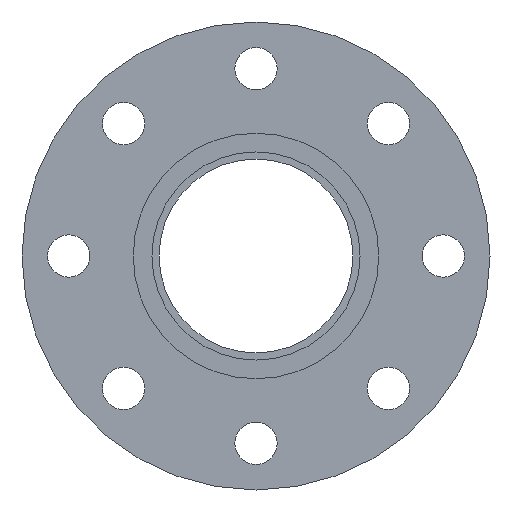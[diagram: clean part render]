
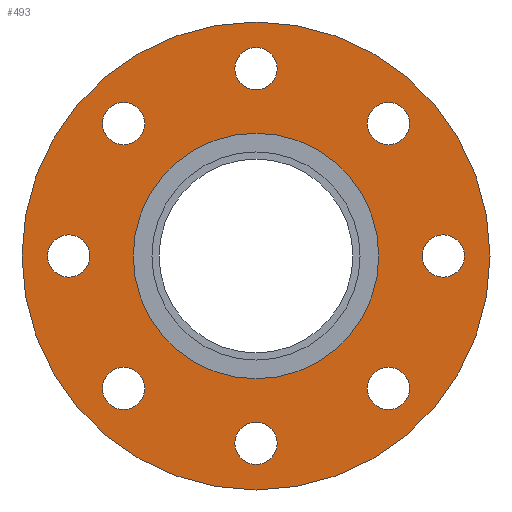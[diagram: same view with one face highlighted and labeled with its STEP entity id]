
A CAD part, left-side view. The second image highlights one B-rep face of the part: STEP entity #493.
In plain terms, the highlighted planar face has unit normal (-1, 0, 0).
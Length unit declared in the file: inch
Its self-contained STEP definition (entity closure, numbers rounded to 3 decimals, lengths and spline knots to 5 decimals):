
#49=FACE_BOUND('',#119,.T.);
#50=FACE_BOUND('',#120,.T.);
#51=FACE_BOUND('',#121,.T.);
#52=FACE_BOUND('',#122,.T.);
#53=FACE_BOUND('',#123,.T.);
#54=FACE_BOUND('',#124,.T.);
#55=FACE_BOUND('',#125,.T.);
#56=FACE_BOUND('',#126,.T.);
#57=FACE_BOUND('',#127,.T.);
#72=PLANE('',#571);
#92=FACE_OUTER_BOUND('',#118,.T.);
#118=EDGE_LOOP('',(#397,#398));
#119=EDGE_LOOP('',(#399));
#120=EDGE_LOOP('',(#400));
#121=EDGE_LOOP('',(#401));
#122=EDGE_LOOP('',(#402));
#123=EDGE_LOOP('',(#403));
#124=EDGE_LOOP('',(#404));
#125=EDGE_LOOP('',(#405));
#126=EDGE_LOOP('',(#406));
#127=EDGE_LOOP('',(#407,#408));
#173=CIRCLE('',#520,0.355);
#175=CIRCLE('',#523,0.355);
#177=CIRCLE('',#526,0.355);
#179=CIRCLE('',#529,0.355);
#181=CIRCLE('',#532,0.355);
#183=CIRCLE('',#535,0.355);
#185=CIRCLE('',#538,0.355);
#187=CIRCLE('',#541,0.355);
#206=CIRCLE('',#569,2.065);
#207=CIRCLE('',#570,2.065);
#208=CIRCLE('',#572,3.935);
#209=CIRCLE('',#573,3.935);
#217=VERTEX_POINT('',#776);
#219=VERTEX_POINT('',#782);
#221=VERTEX_POINT('',#788);
#223=VERTEX_POINT('',#794);
#225=VERTEX_POINT('',#800);
#227=VERTEX_POINT('',#806);
#229=VERTEX_POINT('',#812);
#231=VERTEX_POINT('',#818);
#250=VERTEX_POINT('',#870);
#251=VERTEX_POINT('',#871);
#252=VERTEX_POINT('',#876);
#253=VERTEX_POINT('',#877);
#262=EDGE_CURVE('',#217,#217,#173,.T.);
#265=EDGE_CURVE('',#219,#219,#175,.T.);
#268=EDGE_CURVE('',#221,#221,#177,.T.);
#271=EDGE_CURVE('',#223,#223,#179,.T.);
#274=EDGE_CURVE('',#225,#225,#181,.T.);
#277=EDGE_CURVE('',#227,#227,#183,.T.);
#280=EDGE_CURVE('',#229,#229,#185,.T.);
#283=EDGE_CURVE('',#231,#231,#187,.T.);
#306=EDGE_CURVE('',#250,#251,#206,.T.);
#307=EDGE_CURVE('',#251,#250,#207,.T.);
#309=EDGE_CURVE('',#252,#253,#208,.T.);
#310=EDGE_CURVE('',#253,#252,#209,.T.);
#397=ORIENTED_EDGE('',*,*,#309,.F.);
#398=ORIENTED_EDGE('',*,*,#310,.F.);
#399=ORIENTED_EDGE('',*,*,#262,.T.);
#400=ORIENTED_EDGE('',*,*,#265,.T.);
#401=ORIENTED_EDGE('',*,*,#268,.T.);
#402=ORIENTED_EDGE('',*,*,#271,.T.);
#403=ORIENTED_EDGE('',*,*,#274,.T.);
#404=ORIENTED_EDGE('',*,*,#277,.T.);
#405=ORIENTED_EDGE('',*,*,#280,.T.);
#406=ORIENTED_EDGE('',*,*,#283,.T.);
#407=ORIENTED_EDGE('',*,*,#306,.T.);
#408=ORIENTED_EDGE('',*,*,#307,.T.);
#493=ADVANCED_FACE('',(#92,#49,#50,#51,#52,#53,#54,#55,#56,#57),#72,.T.);
#520=AXIS2_PLACEMENT_3D('',#778,#604,#605);
#523=AXIS2_PLACEMENT_3D('',#784,#611,#612);
#526=AXIS2_PLACEMENT_3D('',#790,#618,#619);
#529=AXIS2_PLACEMENT_3D('',#796,#625,#626);
#532=AXIS2_PLACEMENT_3D('',#802,#632,#633);
#535=AXIS2_PLACEMENT_3D('',#808,#639,#640);
#538=AXIS2_PLACEMENT_3D('',#814,#646,#647);
#541=AXIS2_PLACEMENT_3D('',#820,#653,#654);
#569=AXIS2_PLACEMENT_3D('',#872,#713,#714);
#570=AXIS2_PLACEMENT_3D('',#873,#715,#716);
#571=AXIS2_PLACEMENT_3D('',#875,#718,#719);
#572=AXIS2_PLACEMENT_3D('',#878,#720,#721);
#573=AXIS2_PLACEMENT_3D('',#879,#722,#723);
#604=DIRECTION('center_axis',(1.,0.,0.));
#605=DIRECTION('ref_axis',(0.,0.707,0.707));
#611=DIRECTION('center_axis',(1.,0.,0.));
#612=DIRECTION('ref_axis',(0.,1.,0.));
#618=DIRECTION('center_axis',(1.,0.,0.));
#619=DIRECTION('ref_axis',(0.,0.707,-0.707));
#625=DIRECTION('center_axis',(1.,0.,0.));
#626=DIRECTION('ref_axis',(0.,0.,-1.));
#632=DIRECTION('center_axis',(1.,0.,0.));
#633=DIRECTION('ref_axis',(0.,-0.707,-0.707));
#639=DIRECTION('center_axis',(1.,0.,0.));
#640=DIRECTION('ref_axis',(0.,-1.,0.));
#646=DIRECTION('center_axis',(1.,0.,0.));
#647=DIRECTION('ref_axis',(0.,-0.707,0.707));
#653=DIRECTION('center_axis',(1.,0.,0.));
#654=DIRECTION('ref_axis',(0.,0.,1.));
#713=DIRECTION('center_axis',(1.,0.,0.));
#714=DIRECTION('ref_axis',(0.,0.,-1.));
#715=DIRECTION('center_axis',(1.,0.,0.));
#716=DIRECTION('ref_axis',(0.,0.,-1.));
#718=DIRECTION('center_axis',(-1.,0.,0.));
#719=DIRECTION('ref_axis',(0.,0.,1.));
#720=DIRECTION('center_axis',(1.,0.,0.));
#721=DIRECTION('ref_axis',(0.,0.,-1.));
#722=DIRECTION('center_axis',(1.,0.,0.));
#723=DIRECTION('ref_axis',(0.,0.,-1.));
#776=CARTESIAN_POINT('',(-0.79,1.97636,-2.47841));
#778=CARTESIAN_POINT('Origin',(-0.79,2.22739,-2.22739));
#782=CARTESIAN_POINT('',(-0.79,-0.355,-3.15));
#784=CARTESIAN_POINT('Origin',(-0.79,0.,
-3.15));
#788=CARTESIAN_POINT('',(-0.79,-2.47841,-1.97636));
#790=CARTESIAN_POINT('Origin',(-0.79,-2.22739,-2.22739));
#794=CARTESIAN_POINT('',(-0.79,-3.15,0.355));
#796=CARTESIAN_POINT('Origin',(-0.79,-3.15,0.));
#800=CARTESIAN_POINT('',(-0.79,-1.97636,2.47841));
#802=CARTESIAN_POINT('Origin',(-0.79,-2.22739,2.22739));
#806=CARTESIAN_POINT('',(-0.79,0.355,3.15));
#808=CARTESIAN_POINT('Origin',(-0.79,0.,
3.15));
#812=CARTESIAN_POINT('',(-0.79,2.47841,1.97636));
#814=CARTESIAN_POINT('Origin',(-0.79,2.22739,2.22739));
#818=CARTESIAN_POINT('',(-0.79,3.15,-0.355));
#820=CARTESIAN_POINT('Origin',(-0.79,3.15,0.));
#870=CARTESIAN_POINT('',(-0.79,2.065,0.));
#871=CARTESIAN_POINT('',(-0.79,-2.065,0.));
#872=CARTESIAN_POINT('Origin',(-0.79,0.,0.));
#873=CARTESIAN_POINT('Origin',(-0.79,0.,0.));
#875=CARTESIAN_POINT('Origin',(-0.79,3.935,0.));
#876=CARTESIAN_POINT('',(-0.79,3.935,0.));
#877=CARTESIAN_POINT('',(-0.79,-3.935,0.));
#878=CARTESIAN_POINT('Origin',(-0.79,0.,
0.));
#879=CARTESIAN_POINT('Origin',(-0.79,0.,
0.));
